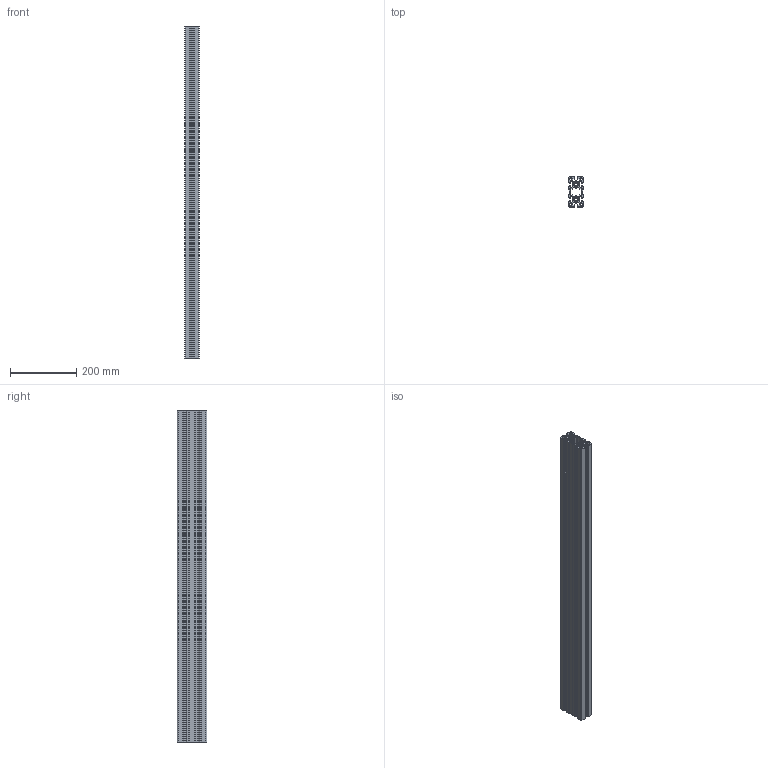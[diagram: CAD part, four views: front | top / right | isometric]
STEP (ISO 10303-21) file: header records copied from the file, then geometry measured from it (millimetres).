
FILE_DESCRIPTION (( 'STEP AP214' ), '1' );
FILE_NAME ('4590H.STEP', '2019-10-06T06:01:40', ( '' ), ( '' ), 'SwSTEP 2.0', 'SolidWorks 2014', '' );
FILE_SCHEMA (( 'AUTOMOTIVE_DESIGN' ));
Length unit declared in the file: millimetre
Products named in the file (2): 4590H
Bounding box: 45 x 90 x 1000 mm (x, y, z)
Volume: 1565107.3 mm3; surface area: 905432.4 mm2
Topology: 1 solids, 1 shells, 239 faces, 711 edges, 474 vertices
Faces by surface type: plane 160, cylinder 79
Entity records: 8080 total; most frequent: CARTESIAN_POINT 1426, ORIENTED_EDGE 1422, DIRECTION 1351, EDGE_CURVE 711, VECTOR 553, LINE 553, VERTEX_POINT 474, AXIS2_PLACEMENT_3D 399
